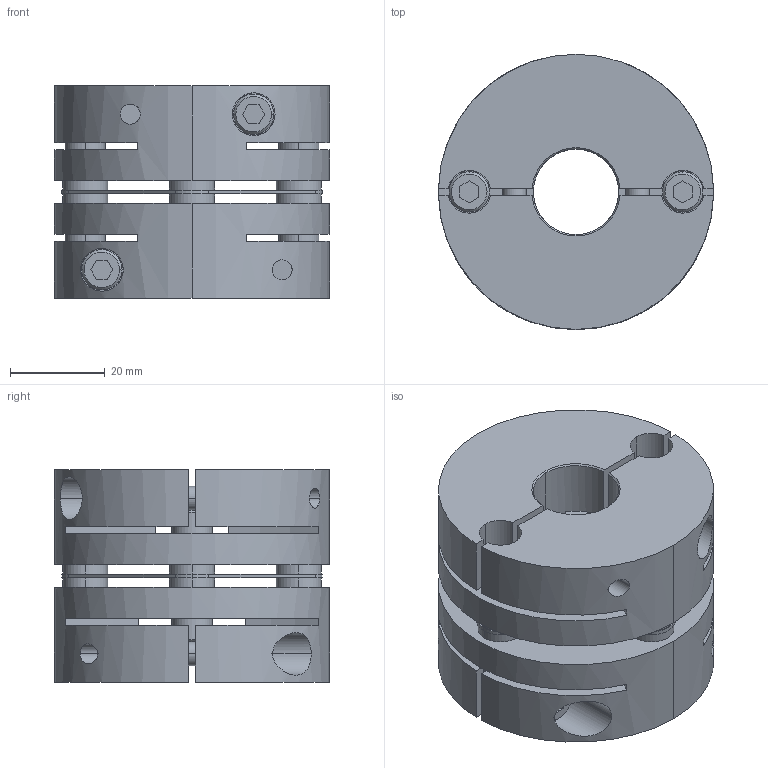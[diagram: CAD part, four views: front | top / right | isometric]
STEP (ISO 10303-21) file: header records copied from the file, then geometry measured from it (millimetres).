
FILE_DESCRIPTION((''),'2;1');
FILE_NAME('LAS-58C-18×25.stp','2015-10-15T14:54:38',(''),(''),'AutoCAD STEP 2000i','AutoCAD 2000i',', , ');
FILE_SCHEMA(('CONFIG_CONTROL_DESIGN'));
Length unit declared in the file: millimetre
Products named in the file (6): LAS-58C-12×19; 忣兜1; LA-5802-D19; LA-5802-D12-1; LA-5802-D12; LAS58-ITA
Assembly tree (5 placements, depth 2):
  LAS-58C-12×19
    忣兜1
    LA-5802-D19
    LA-5802-D12-1
    LA-5802-D12
    LAS58-ITA
Bounding box: 58 x 58 x 44.8 mm (x, y, z)
Volume: 81957 mm3; surface area: 32652.2 mm2
Topology: 1 solids, 1 shells, 238 faces, 618 edges, 404 vertices
Faces by surface type: plane 114, cylinder 96, cone 28
Entity records: 8213 total; most frequent: CARTESIAN_POINT 1988, DIRECTION 1316, ORIENTED_EDGE 1240, EDGE_CURVE 620, AXIS2_PLACEMENT_3D 484, VERTEX_POINT 404, VECTOR 348, LINE 348
